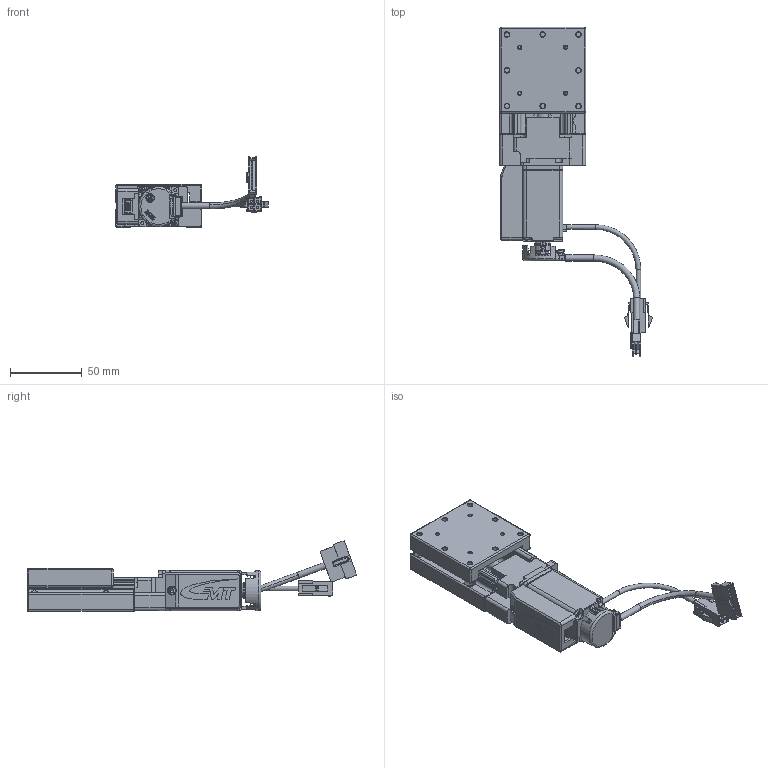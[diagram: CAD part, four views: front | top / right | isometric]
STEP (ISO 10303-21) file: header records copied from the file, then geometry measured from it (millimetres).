
FILE_DESCRIPTION(/* description */ (''),/* implementation_level */ '2;1');
FILE_NAME(/* name */ 'CXS6030-Ezi-Servo-PR-28M',/* time_stamp */ '2023-02-09T21:11:34+01:00',/* author */ (''),/* organization */ ('GMT Europe'),/* preprocessor_version */ 'ST-DEVELOPER v16.7',/* originating_system */ 'Solid Edge',/* authorisation */ 'Unknown');
FILE_SCHEMA (('AUTOMOTIVE_DESIGN {1 0 10303 214 3 1 1}'));
Products named in the file (24): CXS6030-Ezi-Servo-PR-28M; CXS6030; Group1^CXS6030-S模糊化; Group2^CXS6030-S模糊化; Motorflansch-ix-001; ISO 4762_M2,5x5_8.8; ISO 4762_M3x10_8.8; Ezi-SERVO-Plus-R; 馨檜蝶; SW3dPS-R28i_R28i_Hub; SW3dPS-R28i_R28i_Disk; SW3dPS-R28i_R28i_PCB; SW3dPS-R28i_Connector; SW3dPS-R28i_R28i_BaseStandoff; SW3dPS-R28i_R28i_LeadFrame; SW3dPS-R28i_R28i_Cover; encoder_cable_28; 馨檜綰; Power_Cable_20; M11-MO-028-03-R01; Gehäuse-ix-001; Platine-ix-001; PCB ix Industrial-001; 09452819001
Assembly tree (23 placements, depth 4):
  CXS6030-Ezi-Servo-PR-28M
    CXS6030
      Group1^CXS6030-S模糊化
      Group2^CXS6030-S模糊化
    Motorflansch-ix-001
    ISO 4762_M2,5x5_8.8
    ISO 4762_M3x10_8.8
    Ezi-SERVO-Plus-R
      馨檜蝶
        SW3dPS-R28i_R28i_Hub
        SW3dPS-R28i_R28i_Disk
        SW3dPS-R28i_R28i_PCB
        SW3dPS-R28i_Connector
        SW3dPS-R28i_R28i_BaseStandoff
        SW3dPS-R28i_R28i_LeadFrame
        SW3dPS-R28i_R28i_Cover
        encoder_cable_28
      馨檜綰
        Power_Cable_20
      M11-MO-028-03-R01
    Gehäuse-ix-001
    Platine-ix-001
      PCB ix Industrial-001
      09452819001
Bounding box: 106.51 x 230.19 x 49.45 mm (x, y, z)
Volume: 163925.7 mm3; surface area: 77022.1 mm2
Topology: 21 solids, 21 shells, 4484 faces, 12221 edges, 8040 vertices
Faces by surface type: plane 3195, cylinder 840, bspline 313, cone 80, torus 38, sphere 18
Full cylindrical faces by diameter (mm): 0.9 x54, 1 x15, 1.4 x54, 1.45 x2, 1.5 x4, 1.57 x1, 1.6 x1, 2.013 x2, 2.05 x4, 2.1 x2, 2.459 x1, 2.5 x5, 2.8 x4, 3 x2, 3.172 x1, 3.2 x1, 3.3 x10, 3.5 x1, 3.8 x1, 4.3 x2, 4.5 x4, 4.68 x1, 5 x2, 5.5 x2, 6 x3, 6.2 x1, 7.8 x4, 8 x2, 8.5 x1, 8.69 x1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
Entity records: 163005 total; most frequent: CARTESIAN_POINT 41242, ORIENTED_EDGE 23750, DIRECTION 21351, EDGE_CURVE 11875, LINE 9279, VECTOR 9279, VERTEX_POINT 7976, AXIS2_PLACEMENT_3D 6036
